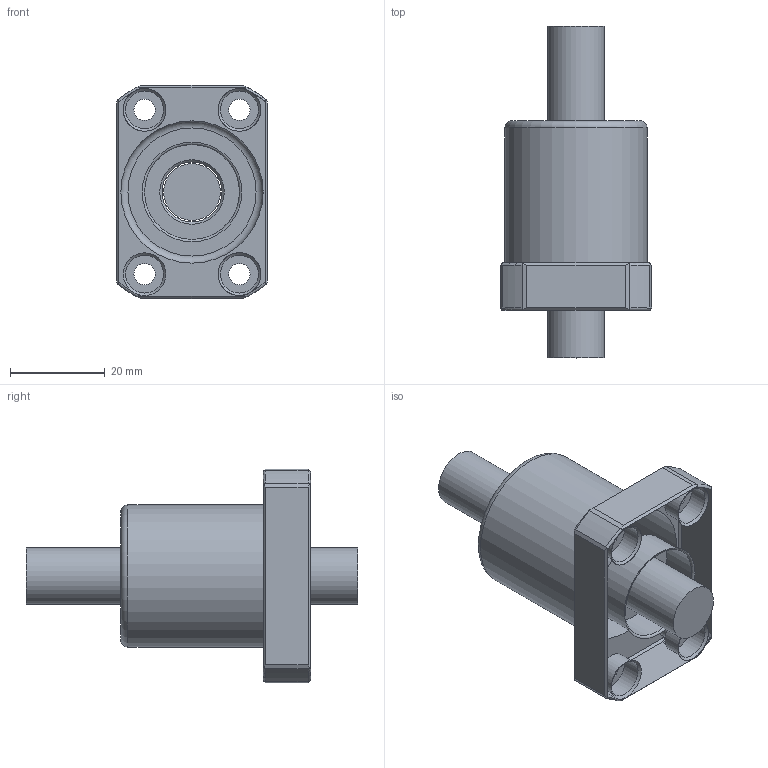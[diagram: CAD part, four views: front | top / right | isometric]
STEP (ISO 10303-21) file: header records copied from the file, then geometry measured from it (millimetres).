
FILE_DESCRIPTION(/* description */ (''),/* implementation_level */ '2;1');
FILE_NAME(/* name */ '1210.prt.step',/* time_stamp */ '2008-12-05T09:29:25+08:00',/* author */ (''),/* organization */ (''),/* preprocessor_version */ 'ST-DEVELOPER v11',/* originating_system */ 'SIEMENS UGS NX 6.0',/* authorisation */ '');
FILE_SCHEMA (('AUTOMOTIVE_DESIGN { 1 0 10303 214 1 1 1 1 }'));
Length unit declared in the file: millimetre
Products named in the file (1): 1210
Bounding box: 32 x 70 x 45 mm (x, y, z)
Volume: 33814.2 mm3; surface area: 12040.4 mm2
Topology: 2 solids, 2 shells, 69 faces, 177 edges, 115 vertices
Faces by surface type: plane 31, cylinder 17, torus 11, cone 10
Full cylindrical faces by diameter (mm): 4.5 x4, 8 x4, 11.95 x1, 12.6 x1, 20 x2, 30 x1
Entity records: 2350 total; most frequent: CARTESIAN_POINT 816, DIRECTION 306, ORIENTED_EDGE 278, EDGE_CURVE 139, AXIS2_PLACEMENT_3D 129, EDGE_LOOP 108, VERTEX_POINT 103, FACE_BOUND 74
